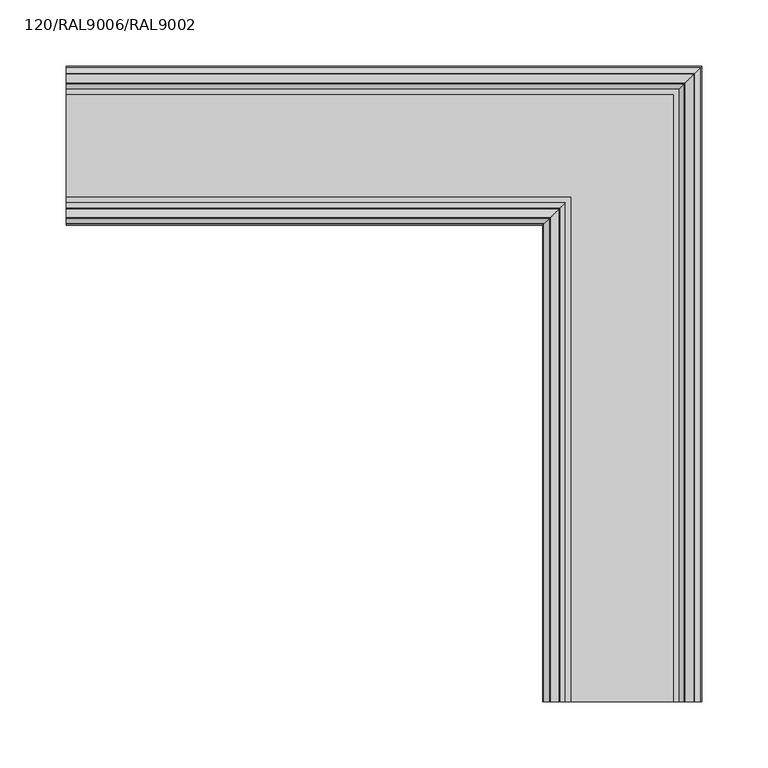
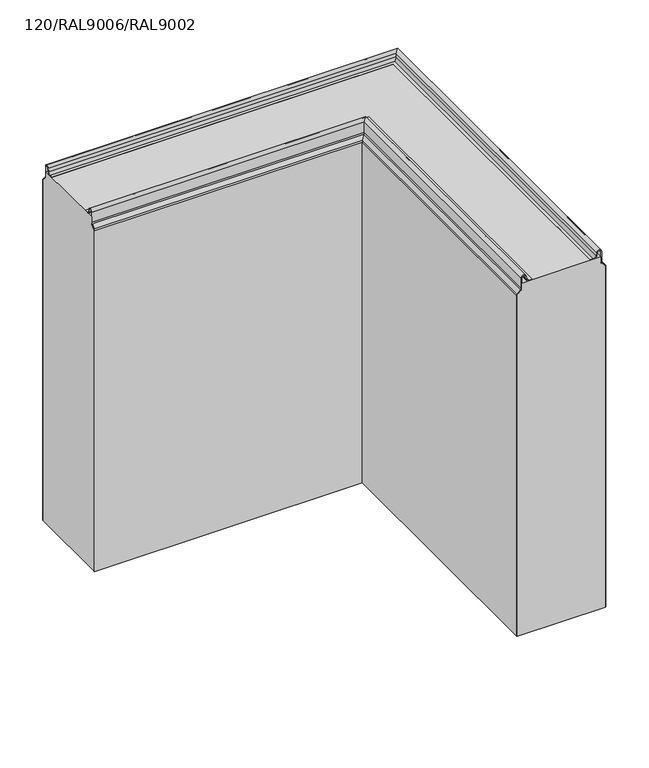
"""IFC4 building model written with IfcOpenShell, lengths in millimetres: plate geometry, TR_C_H_FTV_Corner_Tr_A_cut_TONGUE : 120/RAL9006/RAL9002."""

from ifc_helpers import new_model, si_unit, frame, origin, place, context, project, spatial, polyline, circle_curve, ellipse_curve, source, transform, mapped, element, save
from ifc_brep_helpers import plane_surface, cylinder_surface, revolved_surface, advanced_brep


def plate_120_ral9006_ral9002_852db846(model_context):
    return source(origin(), model_context, "Body", "AdvancedBrep", [
        advanced_brep(
        [(233.2, -480.0, 500.0), (126.8, -480.0, 500.0), (126.8, -480.0, 492.6000012), (125.8334524, -480.0, 490.2665488), (121.4443651, -480.0, 485.8774615), (120.8, -480.0, 484.3218266), (120.8, -480.0, 0.0), (239.2, -480.0, 0.0), (239.2, -480.0, 484.3218266), (238.5556349, -480.0, 485.8774615), (234.1665476, -480.0, 490.2665488), (233.2, -480.0, 492.6000012), (126.8, -113.2, 492.6000012), (126.8, -113.2, 500.0), (-240.0, -113.2, 500.0), (-240.0, -113.2, 492.6000012), (-240.0, -114.1665476, 490.2665488), (125.8334524, -114.1665476, 490.2665488), (-240.0, -118.5556349, 485.8774615), (121.4443651, -118.5556349, 485.8774615), (-240.0, -119.2, 484.3218266), (120.8, -119.2, 484.3218266), (238.5556349, -1.4443651, 485.8774615), (239.2, -0.8, 484.3218266), (-240.0, -0.8, 484.3218266), (-240.0, -1.4443651, 485.8774615), (-240.0, -5.8334524, 490.2665488), (234.1665476, -5.8334524, 490.2665488), (-240.0, -6.8, 492.6000012), (233.2, -6.8, 492.6000012), (-240.0, -6.8, 500.0), (233.2, -6.8, 500.0), (-240.0, -0.8, 0.0), (-240.0, -119.2, 0.0), (120.8, -119.2, 0.0), (239.2, -0.8, 0.0)],
        [
            (0, 1),
            (1, 2),
            (2, 3, circle_curve(frame((123.5, -480.0, 492.6000012), z_axis=(0.0, 1.0, 0.0), x_axis=(-1.0, 0.0, 0.0)), 3.3)),
            (3, 4),
            (4, 5, circle_curve(frame((123.0, -480.0, 484.3218266), z_axis=(0.0, -1.0, 0.0), x_axis=(-1.0, 0.0, 0.0)), 2.2)),
            (5, 6),
            (6, 7),
            (7, 8),
            (8, 9, circle_curve(frame((237.0, -480.0, 484.3218266), z_axis=(0.0, -1.0, 0.0), x_axis=(-1.0, 0.0, 0.0)), 2.2)),
            (9, 10),
            (10, 11, circle_curve(frame((236.5, -480.0, 492.6000012), z_axis=(0.0, 1.0, 0.0), x_axis=(-1.0, 0.0, 0.0)), 3.3)),
            (11, 0),
            (12, 13),
            (13, 14),
            (14, 15),
            (15, 12),
            (15, 16, circle_curve(frame((-240.0, -116.5, 492.6000012), z_axis=(-1.0, 0.0, 0.0), x_axis=(0.0, -1.0, 0.0)), 3.3)),
            (16, 17),
            (17, 12, ellipse_curve(frame((123.5, -116.5, 492.6000012), z_axis=(0.7071067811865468, -0.7071067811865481, 0.0), x_axis=(-0.7071067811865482, -0.7071067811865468, 0.0)), 4.6669048, 3.3)),
            (16, 18),
            (18, 19),
            (19, 17),
            (18, 20, circle_curve(frame((-240.0, -117.0, 484.3218266), z_axis=(1.0, 0.0, 0.0), x_axis=(0.0, -1.0, 0.0)), 2.2)),
            (20, 21),
            (21, 19, ellipse_curve(frame((123.0, -117.0, 484.3218266), z_axis=(-0.7071067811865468, 0.7071067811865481, 0.0), x_axis=(0.7071067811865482, 0.7071067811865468, 0.0)), 3.1112698, 2.2)),
            (22, 23, ellipse_curve(frame((237.0, -3.0, 484.3218266), z_axis=(-0.7071067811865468, 0.7071067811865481, 0.0), x_axis=(0.7071067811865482, 0.7071067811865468, 0.0)), 3.1112698, 2.2)),
            (23, 24),
            (24, 25, circle_curve(frame((-240.0, -3.0, 484.3218266), z_axis=(1.0, 0.0, 0.0), x_axis=(0.0, -1.0, 0.0)), 2.2)),
            (25, 22),
            (25, 26),
            (26, 27),
            (27, 22),
            (26, 28, circle_curve(frame((-240.0, -3.5, 492.6000012), z_axis=(-1.0, 0.0, 0.0), x_axis=(0.0, -1.0, 0.0)), 3.3)),
            (28, 29),
            (29, 27, ellipse_curve(frame((236.5, -3.5, 492.6000012), z_axis=(0.7071067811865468, -0.7071067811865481, 0.0), x_axis=(-0.7071067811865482, -0.7071067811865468, 0.0)), 4.6669048, 3.3)),
            (28, 30),
            (30, 31),
            (31, 29),
            (14, 30),
            (24, 32),
            (32, 33),
            (33, 20),
            (0, 31),
            (13, 1),
            (12, 2),
            (17, 3),
            (19, 4),
            (21, 5),
            (8, 23),
            (22, 9),
            (27, 10),
            (29, 11),
            (21, 34),
            (34, 6),
            (7, 35),
            (35, 23),
            (33, 34),
            (35, 32),
        ],
        [
            plane_surface(frame((240.0, -480.0, 0.0), z_axis=(0.0, -1.0, 0.0), x_axis=(0.0, 0.0, 1.0))),
            plane_surface(frame((126.8, -113.2, 500.0), z_axis=(0.0, -1.0, 0.0), x_axis=(-1.0, 0.0, 0.0))),
            revolved_surface(polyline([(-240.0, -119.8, 492.6000012), (126.80000003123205, -119.8, 492.6000012)]), (240.0, -116.5, 492.6000012), (-1.0, 0.0, 0.0)),
            plane_surface(frame((125.8334524, -114.1665476, 490.2665488), z_axis=(0.0, -0.7071067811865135, 0.7071067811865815), x_axis=(-1.0, 0.0, 0.0))),
            cylinder_surface(frame((240.0, -117.0, 484.3218266), z_axis=(1.0, 0.0, 0.0), x_axis=(0.0, -1.0, 0.0)), 2.2),
            cylinder_surface(frame((240.0, -3.0, 484.3218266), z_axis=(1.0, 0.0, 0.0), x_axis=(0.0, -1.0, 0.0)), 2.2),
            plane_surface(frame((238.5556349, -1.4443651, 485.8774615), z_axis=(0.0, 0.7071067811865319, 0.7071067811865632), x_axis=(-1.0, 0.0, 0.0))),
            revolved_surface(polyline([(-240.0, -6.8, 492.6000012), (239.80000003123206, -6.8, 492.6000012)]), (240.0, -3.5, 492.6000012), (-1.0, 0.0, 0.0)),
            plane_surface(frame((233.2, -6.8, 492.6000012), z_axis=(0.0, 1.0, 0.0), x_axis=(-1.0, 0.0, 0.0))),
            plane_surface(frame((-240.0, 0.0, 0.0), z_axis=(-1.0, 0.0, 0.0), x_axis=(0.0, 0.0, 1.0))),
            plane_surface(frame((233.2, -480.0, 500.0), z_axis=(0.0, 0.0, 1.0), x_axis=(0.0, 1.0, 0.0))),
            plane_surface(frame((126.8, -480.0, 500.0), z_axis=(-1.0, 0.0, 0.0), x_axis=(0.0, 1.0, 0.0))),
            revolved_surface(polyline([(120.2, -113.19999996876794, 492.6000012), (120.2, -480.0, 492.6000012)]), (123.5, -480.0, 492.6000012), (0.0, 1.0, 0.0)),
            plane_surface(frame((125.8334524, -480.0, 490.2665488), z_axis=(-0.7071067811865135, 0.0, 0.7071067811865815), x_axis=(0.0, 1.0, 0.0))),
            cylinder_surface(frame((123.0, -480.0, 484.3218266), z_axis=(0.0, -1.0, 0.0), x_axis=(-1.0, 0.0, 0.0)), 2.2),
            cylinder_surface(frame((237.0, -480.0, 484.3218266), z_axis=(0.0, -1.0, 0.0), x_axis=(-1.0, 0.0, 0.0)), 2.2),
            plane_surface(frame((238.5556349, -480.0, 485.8774615), z_axis=(0.7071067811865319, 0.0, 0.7071067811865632), x_axis=(0.0, 1.0, 0.0))),
            revolved_surface(polyline([(233.2, -0.19999996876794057, 492.6000012), (233.2, -480.0, 492.6000012)]), (236.5, -480.0, 492.6000012), (0.0, 1.0, 0.0)),
            plane_surface(frame((233.2, -480.0, 492.6000012), z_axis=(1.0, 0.0, 0.0), x_axis=(0.0, 1.0, 0.0))),
            plane_surface(frame((120.8, -480.0, 484.3218266), z_axis=(-1.0, 0.0, 0.0), x_axis=(0.0, 1.0, 0.0))),
            plane_surface(frame((239.2, -480.0, -485.5999988), z_axis=(1.0, 0.0, 0.0), x_axis=(0.0, 1.0, 0.0))),
            plane_surface(frame((120.8, -119.2, 484.3218266), z_axis=(0.0, -1.0, 0.0), x_axis=(-1.0, 0.0, 0.0))),
            plane_surface(frame((239.2, -0.8, -485.5999988), z_axis=(0.0, 1.0, 0.0), x_axis=(-1.0, 0.0, 0.0))),
            plane_surface(frame((240.0, -480.0, 0.0), z_axis=(0.0, 0.0, -1.0), x_axis=(0.0, 1.0, 0.0))),
        ],
        [
            (0, [[1, 2, 3, 4, 5, 6, 7, 8, 9, 10, 11, 12]]),
            (1, [[13, 14, 15, 16]]),
            (2, [[-16, 17, 18, 19]]),
            (3, [[-18, 20, 21, 22]]),
            (4, [[-21, 23, 24, 25]]),
            (5, [[26, 27, 28, 29]]),
            (6, [[-29, 30, 31, 32]]),
            (7, [[-31, 33, 34, 35]]),
            (8, [[-34, 36, 37, 38]]),
            (9, [[-15, 39, -36, -33, -30, -28, 40, 41, 42, -23, -20, -17]]),
            (10, [[-1, 43, -37, -39, -14, 44]]),
            (11, [[-2, -44, -13, 45]]),
            (12, [[-3, -45, -19, 46]]),
            (13, [[-4, -46, -22, 47]]),
            (14, [[-5, -47, -25, 48]]),
            (15, [[-9, 49, -26, 50]]),
            (16, [[-10, -50, -32, 51]]),
            (17, [[-11, -51, -35, 52]]),
            (18, [[-12, -52, -38, -43]]),
            (19, [[-48, 53, 54, -6]]),
            (20, [[-49, -8, 55, 56]]),
            (21, [[-24, -42, 57, -53]]),
            (22, [[-27, -56, 58, -40]]),
            (23, [[-7, -54, -57, -41, -58, -55]]),
        ],
    ),
        advanced_brep(
        [(223.1130328, -480.0, 499.8000012), (227.5939081, -480.0, 503.559902), (228.337221, -480.0, 507.7754392), (233.2, -480.0, 507.3500012), (233.2, -480.0, 492.6000012), (234.1665476, -480.0, 490.2665488), (238.5556349, -480.0, 485.8774615), (239.2, -480.0, 484.3218266), (239.2, -480.0, 0.0), (240.0, -480.0, 0.0), (240.0, -480.0, 484.3218266), (239.1213203, -480.0, 486.4431469), (234.732233, -480.0, 490.8322342), (234.0, -480.0, 492.6000012), (234.0, -480.0, 507.3500012), (227.5493748, -480.0, 507.9143577), (226.8060618, -480.0, 503.6988205), (223.1130328, -480.0, 500.6000012), (219.0, -480.0, 500.6000012), (219.0, -480.0, 499.8000012), (227.5939081, -12.4060919, 503.559902), (223.1130328, -16.8869672, 499.8000012), (-240.0, -16.8869672, 499.8000012), (-240.0, -12.4060919, 503.559902), (-240.0, -11.662779, 507.7754392), (228.337221, -11.662779, 507.7754392), (-240.0, -6.8, 507.3500012), (233.2, -6.8, 507.3500012), (-240.0, -6.8, 492.6000012), (233.2, -6.8, 492.6000012), (-240.0, -5.8334524, 490.2665488), (234.1665476, -5.8334524, 490.2665488), (-240.0, -1.4443651, 485.8774615), (238.5556349, -1.4443651, 485.8774615), (-240.0, -0.8, 484.3218266), (239.2, -0.8, 484.3218266), (239.1213203, -0.8786797, 486.4431469), (240.0, 0.0, 484.3218266), (-240.0, 0.0, 484.3218266), (-240.0, -0.8786797, 486.4431469), (-240.0, -5.267767, 490.8322342), (234.732233, -5.267767, 490.8322342), (-240.0, -6.0, 492.6000012), (234.0, -6.0, 492.6000012), (-240.0, -6.0, 507.3500012), (234.0, -6.0, 507.3500012), (-240.0, -12.4506252, 507.9143577), (227.5493748, -12.4506252, 507.9143577), (-240.0, -13.1939382, 503.6988205), (226.8060618, -13.1939382, 503.6988205), (-240.0, -16.8869672, 500.6000012), (223.1130328, -16.8869672, 500.6000012), (219.0, -21.0, 499.8000012), (219.0, -21.0, 500.6000012), (-240.0, -21.0, 500.6000012), (-240.0, -21.0, 499.8000012), (-240.0, 0.0, 0.0), (-240.0, -0.8, 0.0), (239.2, -0.8, 0.0), (240.0, 0.0, 0.0)],
        [
            (0, 1, circle_curve(frame((223.1130328, -480.0, 504.3500012), z_axis=(0.0, -1.0, 0.0), x_axis=(-1.0, 0.0, 0.0)), 4.55)),
            (1, 2),
            (2, 3, circle_curve(frame((230.75, -480.0, 507.3500012), z_axis=(0.0, 1.0, 0.0), x_axis=(-1.0, 0.0, 0.0)), 2.45)),
            (3, 4),
            (4, 5, circle_curve(frame((236.5, -480.0, 492.6000012), z_axis=(0.0, -1.0, 0.0), x_axis=(-1.0, 0.0, 0.0)), 3.3)),
            (5, 6),
            (6, 7, circle_curve(frame((237.0, -480.0, 484.3218266), z_axis=(0.0, 1.0, 0.0), x_axis=(-1.0, 0.0, 0.0)), 2.2)),
            (7, 8),
            (8, 9),
            (9, 10),
            (10, 11, circle_curve(frame((237.0, -480.0, 484.3218266), z_axis=(0.0, -1.0, 0.0), x_axis=(-1.0, 0.0, 0.0)), 3.0)),
            (11, 12),
            (12, 13, circle_curve(frame((236.5, -480.0, 492.6000012), z_axis=(0.0, 1.0, 0.0), x_axis=(-1.0, 0.0, 0.0)), 2.5)),
            (13, 14),
            (14, 15, circle_curve(frame((230.75, -480.0, 507.3500012), z_axis=(0.0, -1.0, 0.0), x_axis=(-1.0, 0.0, 0.0)), 3.25)),
            (15, 16),
            (16, 17, circle_curve(frame((223.1130328, -480.0, 504.3500012), z_axis=(0.0, 1.0, 0.0), x_axis=(-1.0, 0.0, 0.0)), 3.75)),
            (17, 18),
            (18, 19),
            (19, 0),
            (20, 21, ellipse_curve(frame((223.1130328, -16.8869672, 504.3500012), z_axis=(-0.7071067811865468, 0.7071067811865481, 0.0), x_axis=(0.7071067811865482, 0.7071067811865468, 0.0)), 6.4346717, 4.55)),
            (21, 22),
            (22, 23, circle_curve(frame((-240.0, -16.8869672, 504.3500012), z_axis=(1.0, 0.0, 0.0), x_axis=(0.0, -1.0, 0.0)), 4.55)),
            (23, 20),
            (23, 24),
            (24, 25),
            (25, 20),
            (24, 26, circle_curve(frame((-240.0, -9.25, 507.3500012), z_axis=(-1.0, 0.0, 0.0), x_axis=(0.0, -1.0, 0.0)), 2.45)),
            (26, 27),
            (27, 25, ellipse_curve(frame((230.75, -9.25, 507.3500012), z_axis=(0.7071067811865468, -0.7071067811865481, 0.0), x_axis=(-0.7071067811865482, -0.7071067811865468, 0.0)), 3.4648232, 2.45)),
            (26, 28),
            (28, 29),
            (29, 27),
            (28, 30, circle_curve(frame((-240.0, -3.5, 492.6000012), z_axis=(1.0, 0.0, 0.0), x_axis=(0.0, -1.0, 0.0)), 3.3)),
            (30, 31),
            (31, 29, ellipse_curve(frame((236.5, -3.5, 492.6000012), z_axis=(-0.7071067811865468, 0.7071067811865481, 0.0), x_axis=(0.7071067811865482, 0.7071067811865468, 0.0)), 4.6669048, 3.3)),
            (30, 32),
            (32, 33),
            (33, 31),
            (32, 34, circle_curve(frame((-240.0, -3.0, 484.3218266), z_axis=(-1.0, 0.0, 0.0), x_axis=(0.0, -1.0, 0.0)), 2.2)),
            (34, 35),
            (35, 33, ellipse_curve(frame((237.0, -3.0, 484.3218266), z_axis=(0.7071067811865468, -0.7071067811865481, 0.0), x_axis=(-0.7071067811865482, -0.7071067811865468, 0.0)), 3.1112698, 2.2)),
            (36, 37, ellipse_curve(frame((237.0, -3.0, 484.3218266), z_axis=(-0.7071067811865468, 0.7071067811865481, 0.0), x_axis=(0.7071067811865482, 0.7071067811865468, 0.0)), 4.2426407, 3.0)),
            (37, 38),
            (38, 39, circle_curve(frame((-240.0, -3.0, 484.3218266), z_axis=(1.0, 0.0, 0.0), x_axis=(0.0, -1.0, 0.0)), 3.0)),
            (39, 36),
            (39, 40),
            (40, 41),
            (41, 36),
            (40, 42, circle_curve(frame((-240.0, -3.5, 492.6000012), z_axis=(-1.0, 0.0, 0.0), x_axis=(0.0, -1.0, 0.0)), 2.5)),
            (42, 43),
            (43, 41, ellipse_curve(frame((236.5, -3.5, 492.6000012), z_axis=(0.7071067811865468, -0.7071067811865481, 0.0), x_axis=(-0.7071067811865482, -0.7071067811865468, 0.0)), 3.5355339, 2.5)),
            (42, 44),
            (44, 45),
            (45, 43),
            (44, 46, circle_curve(frame((-240.0, -9.25, 507.3500012), z_axis=(1.0, 0.0, 0.0), x_axis=(0.0, -1.0, 0.0)), 3.25)),
            (46, 47),
            (47, 45, ellipse_curve(frame((230.75, -9.25, 507.3500012), z_axis=(-0.7071067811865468, 0.7071067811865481, 0.0), x_axis=(0.7071067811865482, 0.7071067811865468, 0.0)), 4.5961941, 3.25)),
            (46, 48),
            (48, 49),
            (49, 47),
            (48, 50, circle_curve(frame((-240.0, -16.8869672, 504.3500012), z_axis=(-1.0, 0.0, 0.0), x_axis=(0.0, -1.0, 0.0)), 3.75)),
            (50, 51),
            (51, 49, ellipse_curve(frame((223.1130328, -16.8869672, 504.3500012), z_axis=(0.7071067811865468, -0.7071067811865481, 0.0), x_axis=(-0.7071067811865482, -0.7071067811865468, 0.0)), 5.3033009, 3.75)),
            (52, 53),
            (53, 54),
            (54, 55),
            (55, 52),
            (22, 55),
            (54, 50),
            (38, 56),
            (56, 57),
            (57, 34),
            (0, 21),
            (20, 1),
            (25, 2),
            (27, 3),
            (29, 4),
            (31, 5),
            (33, 6),
            (35, 7),
            (10, 37),
            (36, 11),
            (41, 12),
            (43, 13),
            (45, 14),
            (47, 15),
            (49, 16),
            (51, 17),
            (53, 18),
            (52, 19),
            (35, 58),
            (58, 8),
            (9, 59),
            (59, 37),
            (57, 58),
            (59, 56),
        ],
        [
            plane_surface(frame((240.0, -480.0, 0.0), z_axis=(0.0, -1.0, 0.0), x_axis=(0.0, 0.0, 1.0))),
            cylinder_surface(frame((240.0, -16.8869672, 504.3500012), z_axis=(1.0, 0.0, 0.0), x_axis=(0.0, -1.0, 0.0)), 4.55),
            plane_surface(frame((227.5939081, -12.4060919, 503.559902), z_axis=(0.0, 0.9848077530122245, -0.17364817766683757), x_axis=(-1.0, 0.0, 0.0))),
            revolved_surface(polyline([(-240.0, -11.7, 507.3500012), (233.2, -11.7, 507.3500012)]), (240.0, -9.25, 507.3500012), (-1.0, 0.0, 0.0)),
            plane_surface(frame((233.2, -6.8, 507.3500012), z_axis=(0.0, -1.0, 0.0), x_axis=(-1.0, 0.0, 0.0))),
            cylinder_surface(frame((240.0, -3.5, 492.6000012), z_axis=(1.0, 0.0, 0.0), x_axis=(0.0, -1.0, 0.0)), 3.3),
            plane_surface(frame((234.1665476, -5.8334524, 490.2665488), z_axis=(0.0, -0.7071067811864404, -0.7071067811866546), x_axis=(-1.0, 0.0, 0.0))),
            revolved_surface(polyline([(-240.0, -5.2, 484.3218266), (239.2, -5.2, 484.3218266)]), (240.0, -3.0, 484.3218266), (-1.0, 0.0, 0.0)),
            cylinder_surface(frame((240.0, -3.0, 484.3218266), z_axis=(1.0, 0.0, 0.0), x_axis=(0.0, -1.0, 0.0)), 3.0),
            plane_surface(frame((239.1213203, -0.8786797, 486.4431469), z_axis=(0.0, 0.7071067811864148, 0.7071067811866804), x_axis=(-1.0, 0.0, 0.0))),
            revolved_surface(polyline([(-240.0, -6.0, 492.6000012), (238.99999999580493, -6.0, 492.6000012)]), (240.0, -3.5, 492.6000012), (-1.0, 0.0, 0.0)),
            plane_surface(frame((234.0, -6.0, 492.6000012), z_axis=(0.0, 1.0, 0.0), x_axis=(-1.0, 0.0, 0.0))),
            cylinder_surface(frame((240.0, -9.25, 507.3500012), z_axis=(1.0, 0.0, 0.0), x_axis=(0.0, -1.0, 0.0)), 3.25),
            plane_surface(frame((227.5493748, -12.4506252, 507.9143577), z_axis=(0.0, -0.9848077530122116, 0.17364817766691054), x_axis=(-1.0, 0.0, 0.0))),
            revolved_surface(polyline([(-240.0, -20.6369672, 504.3500012), (226.86303282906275, -20.6369672, 504.3500012)]), (240.0, -16.8869672, 504.3500012), (-1.0, 0.0, 0.0)),
            plane_surface(frame((219.0, -21.0, 500.6000012), z_axis=(0.0, -1.0, 0.0), x_axis=(-1.0, 0.0, 0.0))),
            plane_surface(frame((-240.0, 0.0, 0.0), z_axis=(-1.0, 0.0, 0.0), x_axis=(0.0, 0.0, 1.0))),
            cylinder_surface(frame((223.1130328, -480.0, 504.3500012), z_axis=(0.0, -1.0, 0.0), x_axis=(-1.0, 0.0, 0.0)), 4.55),
            plane_surface(frame((227.5939081, -480.0, 503.559902), z_axis=(0.9848077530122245, 0.0, -0.17364817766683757), x_axis=(0.0, 1.0, 0.0))),
            revolved_surface(polyline([(228.3, -6.800000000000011, 507.3500012), (228.3, -480.0, 507.3500012)]), (230.75, -480.0, 507.3500012), (0.0, 1.0, 0.0)),
            plane_surface(frame((233.2, -480.0, 507.3500012), z_axis=(-1.0, 0.0, 0.0), x_axis=(0.0, 1.0, 0.0))),
            cylinder_surface(frame((236.5, -480.0, 492.6000012), z_axis=(0.0, -1.0, 0.0), x_axis=(-1.0, 0.0, 0.0)), 3.3),
            plane_surface(frame((234.1665476, -480.0, 490.2665488), z_axis=(-0.7071067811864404, 0.0, -0.7071067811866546), x_axis=(0.0, 1.0, 0.0))),
            revolved_surface(polyline([(234.8, -0.8000000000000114, 484.3218266), (234.8, -480.0, 484.3218266)]), (237.0, -480.0, 484.3218266), (0.0, 1.0, 0.0)),
            cylinder_surface(frame((237.0, -480.0, 484.3218266), z_axis=(0.0, -1.0, 0.0), x_axis=(-1.0, 0.0, 0.0)), 3.0),
            plane_surface(frame((239.1213203, -480.0, 486.4431469), z_axis=(0.7071067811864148, 0.0, 0.7071067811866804), x_axis=(0.0, 1.0, 0.0))),
            revolved_surface(polyline([(234.0, -1.0000000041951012, 492.6000012), (234.0, -480.0, 492.6000012)]), (236.5, -480.0, 492.6000012), (0.0, 1.0, 0.0)),
            plane_surface(frame((234.0, -480.0, 492.6000012), z_axis=(1.0, 0.0, 0.0), x_axis=(0.0, 1.0, 0.0))),
            cylinder_surface(frame((230.75, -480.0, 507.3500012), z_axis=(0.0, -1.0, 0.0), x_axis=(-1.0, 0.0, 0.0)), 3.25),
            plane_surface(frame((227.5493748, -480.0, 507.9143577), z_axis=(-0.9848077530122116, 0.0, 0.17364817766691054), x_axis=(0.0, 1.0, 0.0))),
            revolved_surface(polyline([(219.3630328, -13.136967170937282, 504.3500012), (219.3630328, -480.0, 504.3500012)]), (223.1130328, -480.0, 504.3500012), (0.0, 1.0, 0.0)),
            plane_surface(frame((223.1130328, -480.0, 500.6000012), z_axis=(0.0, 0.0, 1.0), x_axis=(0.0, 1.0, 0.0))),
            plane_surface(frame((219.0, -480.0, 500.6000012), z_axis=(-1.0, 0.0, 0.0), x_axis=(0.0, 1.0, 0.0))),
            plane_surface(frame((219.0, -480.0, 499.8000012), z_axis=(0.0, 0.0, -1.0), x_axis=(0.0, 1.0, 0.0))),
            plane_surface(frame((239.2, -480.0, 484.3218266), z_axis=(-1.0, 0.0, 0.0), x_axis=(0.0, 1.0, 0.0))),
            plane_surface(frame((240.0, -480.0, -505.018628), z_axis=(1.0, 0.0, 0.0), x_axis=(0.0, 1.0, 0.0))),
            plane_surface(frame((239.2, -0.8, 484.3218266), z_axis=(0.0, -1.0, 0.0), x_axis=(-1.0, 0.0, 0.0))),
            plane_surface(frame((240.0, 0.0, -505.018628), z_axis=(0.0, 1.0, 0.0), x_axis=(-1.0, 0.0, 0.0))),
            plane_surface(frame((240.0, -480.0, 0.0), z_axis=(0.0, 0.0, -1.0), x_axis=(0.0, 1.0, 0.0))),
        ],
        [
            (0, [[1, 2, 3, 4, 5, 6, 7, 8, 9, 10, 11, 12, 13, 14, 15, 16, 17, 18, 19, 20]]),
            (1, [[21, 22, 23, 24]]),
            (2, [[-24, 25, 26, 27]]),
            (3, [[-26, 28, 29, 30]]),
            (4, [[-29, 31, 32, 33]]),
            (5, [[-32, 34, 35, 36]]),
            (6, [[-35, 37, 38, 39]]),
            (7, [[-38, 40, 41, 42]]),
            (8, [[43, 44, 45, 46]]),
            (9, [[-46, 47, 48, 49]]),
            (10, [[-48, 50, 51, 52]]),
            (11, [[-51, 53, 54, 55]]),
            (12, [[-54, 56, 57, 58]]),
            (13, [[-57, 59, 60, 61]]),
            (14, [[-60, 62, 63, 64]]),
            (15, [[65, 66, 67, 68]]),
            (16, [[-23, 69, -67, 70, -62, -59, -56, -53, -50, -47, -45, 71, 72, 73, -40, -37, -34, -31, -28, -25]]),
            (17, [[-1, 74, -21, 75]]),
            (18, [[-2, -75, -27, 76]]),
            (19, [[-3, -76, -30, 77]]),
            (20, [[-4, -77, -33, 78]]),
            (21, [[-5, -78, -36, 79]]),
            (22, [[-6, -79, -39, 80]]),
            (23, [[-7, -80, -42, 81]]),
            (24, [[-11, 82, -43, 83]]),
            (25, [[-12, -83, -49, 84]]),
            (26, [[-13, -84, -52, 85]]),
            (27, [[-14, -85, -55, 86]]),
            (28, [[-15, -86, -58, 87]]),
            (29, [[-16, -87, -61, 88]]),
            (30, [[-17, -88, -64, 89]]),
            (31, [[-18, -89, -63, -70, -66, 90]]),
            (32, [[-19, -90, -65, 91]]),
            (33, [[-20, -91, -68, -69, -22, -74]]),
            (34, [[-81, 92, 93, -8]]),
            (35, [[-82, -10, 94, 95]]),
            (36, [[-41, -73, 96, -92]]),
            (37, [[-44, -95, 97, -71]]),
            (38, [[-9, -93, -96, -72, -97, -94]]),
        ],
    ),
        advanced_brep(
        [(141.0, -480.0, 500.6000012), (136.8869672, -480.0, 500.6000012), (133.1939382, -480.0, 503.6988205), (132.4506252, -480.0, 507.9143577), (126.0, -480.0, 507.3500012), (126.0, -480.0, 492.6000012), (125.267767, -480.0, 490.8322342), (120.8786797, -480.0, 486.4431469), (120.0, -480.0, 484.3218266), (120.0, -480.0, 0.0), (120.8, -480.0, 0.0), (120.8, -480.0, 484.3218266), (121.4443651, -480.0, 485.8774615), (125.8334524, -480.0, 490.2665488), (126.8, -480.0, 492.6000012), (126.8, -480.0, 507.3500012), (131.662779, -480.0, 507.7754392), (132.4060919, -480.0, 503.559902), (136.8869672, -480.0, 499.8000012), (141.0, -480.0, 499.8000012), (133.1939382, -106.8060618, 503.6988205), (136.8869672, -103.1130328, 500.6000012), (-240.0, -103.1130328, 500.6000012), (-240.0, -106.8060618, 503.6988205), (-240.0, -107.5493748, 507.9143577), (132.4506252, -107.5493748, 507.9143577), (-240.0, -114.0, 507.3500012), (126.0, -114.0, 507.3500012), (-240.0, -114.0, 492.6000012), (126.0, -114.0, 492.6000012), (-240.0, -114.732233, 490.8322342), (125.267767, -114.732233, 490.8322342), (-240.0, -119.1213203, 486.4431469), (120.8786797, -119.1213203, 486.4431469), (-240.0, -120.0, 484.3218266), (120.0, -120.0, 484.3218266), (121.4443651, -118.5556349, 485.8774615), (120.8, -119.2, 484.3218266), (-240.0, -119.2, 484.3218266), (-240.0, -118.5556349, 485.8774615), (-240.0, -114.1665476, 490.2665488), (125.8334524, -114.1665476, 490.2665488), (-240.0, -113.2, 492.6000012), (126.8, -113.2, 492.6000012), (-240.0, -113.2, 507.3500012), (126.8, -113.2, 507.3500012), (-240.0, -108.337221, 507.7754392), (131.662779, -108.337221, 507.7754392), (-240.0, -107.5939081, 503.559902), (132.4060919, -107.5939081, 503.559902), (-240.0, -103.1130328, 499.8000012), (136.8869672, -103.1130328, 499.8000012), (141.0, -99.0, 500.6000012), (141.0, -99.0, 499.8000012), (-240.0, -99.0, 499.8000012), (-240.0, -99.0, 500.6000012), (-240.0, -119.2, 0.0), (-240.0, -120.0, 0.0), (120.0, -120.0, 0.0), (120.8, -119.2, 0.0)],
        [
            (0, 1),
            (1, 2, circle_curve(frame((136.8869672, -480.0, 504.3500012), z_axis=(0.0, 1.0, 0.0), x_axis=(-1.0, 0.0, 0.0)), 3.75)),
            (2, 3),
            (3, 4, circle_curve(frame((129.25, -480.0, 507.3500012), z_axis=(0.0, -1.0, 0.0), x_axis=(-1.0, 0.0, 0.0)), 3.25)),
            (4, 5),
            (5, 6, circle_curve(frame((123.5, -480.0, 492.6000012), z_axis=(0.0, 1.0, 0.0), x_axis=(-1.0, 0.0, 0.0)), 2.5)),
            (6, 7),
            (7, 8, circle_curve(frame((123.0, -480.0, 484.3218266), z_axis=(0.0, -1.0, 0.0), x_axis=(-1.0, 0.0, 0.0)), 3.0)),
            (8, 9),
            (9, 10),
            (10, 11),
            (11, 12, circle_curve(frame((123.0, -480.0, 484.3218266), z_axis=(0.0, 1.0, 0.0), x_axis=(-1.0, 0.0, 0.0)), 2.2)),
            (12, 13),
            (13, 14, circle_curve(frame((123.5, -480.0, 492.6000012), z_axis=(0.0, -1.0, 0.0), x_axis=(-1.0, 0.0, 0.0)), 3.3)),
            (14, 15),
            (15, 16, circle_curve(frame((129.25, -480.0, 507.3500012), z_axis=(0.0, 1.0, 0.0), x_axis=(-1.0, 0.0, 0.0)), 2.45)),
            (16, 17),
            (17, 18, circle_curve(frame((136.8869672, -480.0, 504.3500012), z_axis=(0.0, -1.0, 0.0), x_axis=(-1.0, 0.0, 0.0)), 4.55)),
            (18, 19),
            (19, 0),
            (20, 21, ellipse_curve(frame((136.8869672, -103.1130328, 504.3500012), z_axis=(0.7071067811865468, -0.7071067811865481, 0.0), x_axis=(-0.7071067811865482, -0.7071067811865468, 0.0)), 5.3033009, 3.75)),
            (21, 22),
            (22, 23, circle_curve(frame((-240.0, -103.1130328, 504.3500012), z_axis=(-1.0, 0.0, 0.0), x_axis=(0.0, -1.0, 0.0)), 3.75)),
            (23, 20),
            (23, 24),
            (24, 25),
            (25, 20),
            (24, 26, circle_curve(frame((-240.0, -110.75, 507.3500012), z_axis=(1.0, 0.0, 0.0), x_axis=(0.0, -1.0, 0.0)), 3.25)),
            (26, 27),
            (27, 25, ellipse_curve(frame((129.25, -110.75, 507.3500012), z_axis=(-0.7071067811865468, 0.7071067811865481, 0.0), x_axis=(0.7071067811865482, 0.7071067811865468, 0.0)), 4.5961941, 3.25)),
            (26, 28),
            (28, 29),
            (29, 27),
            (28, 30, circle_curve(frame((-240.0, -116.5, 492.6000012), z_axis=(-1.0, 0.0, 0.0), x_axis=(0.0, -1.0, 0.0)), 2.5)),
            (30, 31),
            (31, 29, ellipse_curve(frame((123.5, -116.5, 492.6000012), z_axis=(0.7071067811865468, -0.7071067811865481, 0.0), x_axis=(-0.7071067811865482, -0.7071067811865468, 0.0)), 3.5355339, 2.5)),
            (30, 32),
            (32, 33),
            (33, 31),
            (32, 34, circle_curve(frame((-240.0, -117.0, 484.3218266), z_axis=(1.0, 0.0, 0.0), x_axis=(0.0, -1.0, 0.0)), 3.0)),
            (34, 35),
            (35, 33, ellipse_curve(frame((123.0, -117.0, 484.3218266), z_axis=(-0.7071067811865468, 0.7071067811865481, 0.0), x_axis=(0.7071067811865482, 0.7071067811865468, 0.0)), 4.2426407, 3.0)),
            (36, 37, ellipse_curve(frame((123.0, -117.0, 484.3218266), z_axis=(0.7071067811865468, -0.7071067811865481, 0.0), x_axis=(-0.7071067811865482, -0.7071067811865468, 0.0)), 3.1112698, 2.2)),
            (37, 38),
            (38, 39, circle_curve(frame((-240.0, -117.0, 484.3218266), z_axis=(-1.0, 0.0, 0.0), x_axis=(0.0, -1.0, 0.0)), 2.2)),
            (39, 36),
            (39, 40),
            (40, 41),
            (41, 36),
            (40, 42, circle_curve(frame((-240.0, -116.5, 492.6000012), z_axis=(1.0, 0.0, 0.0), x_axis=(0.0, -1.0, 0.0)), 3.3)),
            (42, 43),
            (43, 41, ellipse_curve(frame((123.5, -116.5, 492.6000012), z_axis=(-0.7071067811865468, 0.7071067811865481, 0.0), x_axis=(0.7071067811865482, 0.7071067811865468, 0.0)), 4.6669048, 3.3)),
            (42, 44),
            (44, 45),
            (45, 43),
            (44, 46, circle_curve(frame((-240.0, -110.75, 507.3500012), z_axis=(-1.0, 0.0, 0.0), x_axis=(0.0, -1.0, 0.0)), 2.45)),
            (46, 47),
            (47, 45, ellipse_curve(frame((129.25, -110.75, 507.3500012), z_axis=(0.7071067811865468, -0.7071067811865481, 0.0), x_axis=(-0.7071067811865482, -0.7071067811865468, 0.0)), 3.4648232, 2.45)),
            (46, 48),
            (48, 49),
            (49, 47),
            (48, 50, circle_curve(frame((-240.0, -103.1130328, 504.3500012), z_axis=(1.0, 0.0, 0.0), x_axis=(0.0, -1.0, 0.0)), 4.55)),
            (50, 51),
            (51, 49, ellipse_curve(frame((136.8869672, -103.1130328, 504.3500012), z_axis=(-0.7071067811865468, 0.7071067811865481, 0.0), x_axis=(0.7071067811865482, 0.7071067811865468, 0.0)), 6.4346717, 4.55)),
            (52, 53),
            (53, 54),
            (54, 55),
            (55, 52),
            (22, 55),
            (54, 50),
            (38, 56),
            (56, 57),
            (57, 34),
            (0, 52),
            (21, 1),
            (20, 2),
            (25, 3),
            (27, 4),
            (29, 5),
            (31, 6),
            (33, 7),
            (35, 8),
            (11, 37),
            (36, 12),
            (41, 13),
            (43, 14),
            (45, 15),
            (47, 16),
            (49, 17),
            (51, 18),
            (53, 19),
            (35, 58),
            (58, 9),
            (10, 59),
            (59, 37),
            (57, 58),
            (59, 56),
        ],
        [
            plane_surface(frame((240.0, -480.0, 0.0), z_axis=(0.0, -1.0, 0.0), x_axis=(0.0, 0.0, 1.0))),
            revolved_surface(polyline([(-240.0, -106.8630328, 504.3500012), (140.6369672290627, -106.8630328, 504.3500012)]), (240.0, -103.1130328, 504.3500012), (-1.0, 0.0, 0.0)),
            plane_surface(frame((133.1939382, -106.8060618, 503.6988205), z_axis=(0.0, 0.9848077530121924, 0.17364817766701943), x_axis=(-1.0, 0.0, 0.0))),
            cylinder_surface(frame((240.0, -110.75, 507.3500012), z_axis=(1.0, 0.0, 0.0), x_axis=(0.0, -1.0, 0.0)), 3.25),
            plane_surface(frame((126.0, -114.0, 507.3500012), z_axis=(0.0, -1.0, 0.0), x_axis=(-1.0, 0.0, 0.0))),
            revolved_surface(polyline([(-240.0, -119.0, 492.6000012), (126.0, -119.0, 492.6000012)]), (240.0, -116.5, 492.6000012), (-1.0, 0.0, 0.0)),
            plane_surface(frame((125.267767, -114.732233, 490.8322342), z_axis=(0.0, -0.7071067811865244, 0.7071067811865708), x_axis=(-1.0, 0.0, 0.0))),
            cylinder_surface(frame((240.0, -117.0, 484.3218266), z_axis=(1.0, 0.0, 0.0), x_axis=(0.0, -1.0, 0.0)), 3.0),
            revolved_surface(polyline([(-240.0, -119.2, 484.3218266), (125.19999997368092, -119.2, 484.3218266)]), (240.0, -117.0, 484.3218266), (-1.0, 0.0, 0.0)),
            plane_surface(frame((121.4443651, -118.5556349, 485.8774615), z_axis=(0.0, 0.7071067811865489, -0.7071067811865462), x_axis=(-1.0, 0.0, 0.0))),
            cylinder_surface(frame((240.0, -116.5, 492.6000012), z_axis=(1.0, 0.0, 0.0), x_axis=(0.0, -1.0, 0.0)), 3.3),
            plane_surface(frame((126.8, -113.2, 492.6000012), z_axis=(0.0, 1.0, 0.0), x_axis=(-1.0, 0.0, 0.0))),
            revolved_surface(polyline([(-240.0, -113.2, 507.3500012), (131.69999998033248, -113.2, 507.3500012)]), (240.0, -110.75, 507.3500012), (-1.0, 0.0, 0.0)),
            plane_surface(frame((131.662779, -108.337221, 507.7754392), z_axis=(0.0, -0.9848077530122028, -0.1736481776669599), x_axis=(-1.0, 0.0, 0.0))),
            cylinder_surface(frame((240.0, -103.1130328, 504.3500012), z_axis=(1.0, 0.0, 0.0), x_axis=(0.0, -1.0, 0.0)), 4.55),
            plane_surface(frame((141.0, -99.0, 499.8000012), z_axis=(0.0, 1.0, 0.0), x_axis=(-1.0, 0.0, 0.0))),
            plane_surface(frame((-240.0, 0.0, 0.0), z_axis=(-1.0, 0.0, 0.0), x_axis=(0.0, 0.0, 1.0))),
            plane_surface(frame((141.0, -480.0, 500.6000012), z_axis=(0.0, 0.0, 1.0), x_axis=(0.0, 1.0, 0.0))),
            revolved_surface(polyline([(133.1369672, -99.36303277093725, 504.3500012), (133.1369672, -480.0, 504.3500012)]), (136.8869672, -480.0, 504.3500012), (0.0, 1.0, 0.0)),
            plane_surface(frame((133.1939382, -480.0, 503.6988205), z_axis=(0.9848077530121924, 0.0, 0.17364817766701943), x_axis=(0.0, 1.0, 0.0))),
            cylinder_surface(frame((129.25, -480.0, 507.3500012), z_axis=(0.0, -1.0, 0.0), x_axis=(-1.0, 0.0, 0.0)), 3.25),
            plane_surface(frame((126.0, -480.0, 507.3500012), z_axis=(-1.0, 0.0, 0.0), x_axis=(0.0, 1.0, 0.0))),
            revolved_surface(polyline([(121.0, -114.0, 492.6000012), (121.0, -480.0, 492.6000012)]), (123.5, -480.0, 492.6000012), (0.0, 1.0, 0.0)),
            plane_surface(frame((125.267767, -480.0, 490.8322342), z_axis=(-0.7071067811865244, 0.0, 0.7071067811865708), x_axis=(0.0, 1.0, 0.0))),
            cylinder_surface(frame((123.0, -480.0, 484.3218266), z_axis=(0.0, -1.0, 0.0), x_axis=(-1.0, 0.0, 0.0)), 3.0),
            revolved_surface(polyline([(120.8, -114.80000002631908, 484.3218266), (120.8, -480.0, 484.3218266)]), (123.0, -480.0, 484.3218266), (0.0, 1.0, 0.0)),
            plane_surface(frame((121.4443651, -480.0, 485.8774615), z_axis=(0.7071067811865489, 0.0, -0.7071067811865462), x_axis=(0.0, 1.0, 0.0))),
            cylinder_surface(frame((123.5, -480.0, 492.6000012), z_axis=(0.0, -1.0, 0.0), x_axis=(-1.0, 0.0, 0.0)), 3.3),
            plane_surface(frame((126.8, -480.0, 492.6000012), z_axis=(1.0, 0.0, 0.0), x_axis=(0.0, 1.0, 0.0))),
            revolved_surface(polyline([(126.8, -108.30000001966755, 507.3500012), (126.8, -480.0, 507.3500012)]), (129.25, -480.0, 507.3500012), (0.0, 1.0, 0.0)),
            plane_surface(frame((131.662779, -480.0, 507.7754392), z_axis=(-0.9848077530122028, 0.0, -0.1736481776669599), x_axis=(0.0, 1.0, 0.0))),
            cylinder_surface(frame((136.8869672, -480.0, 504.3500012), z_axis=(0.0, -1.0, 0.0), x_axis=(-1.0, 0.0, 0.0)), 4.55),
            plane_surface(frame((136.8869672, -480.0, 499.8000012), z_axis=(0.0, 0.0, -1.0), x_axis=(0.0, 1.0, 0.0))),
            plane_surface(frame((141.0, -480.0, 499.8000012), z_axis=(1.0, 0.0, 0.0), x_axis=(0.0, 1.0, 0.0))),
            plane_surface(frame((120.0, -480.0, 484.3218266), z_axis=(-1.0, 0.0, 0.0), x_axis=(0.0, 1.0, 0.0))),
            plane_surface(frame((120.8, -480.0, -505.018628), z_axis=(1.0, 0.0, 0.0), x_axis=(0.0, 1.0, 0.0))),
            plane_surface(frame((120.0, -120.0, 484.3218266), z_axis=(0.0, -1.0, 0.0), x_axis=(-1.0, 0.0, 0.0))),
            plane_surface(frame((120.8, -119.2, -505.018628), z_axis=(0.0, 1.0, 0.0), x_axis=(-1.0, 0.0, 0.0))),
            plane_surface(frame((240.0, -480.0, 0.0), z_axis=(0.0, 0.0, -1.0), x_axis=(0.0, 1.0, 0.0))),
        ],
        [
            (0, [[1, 2, 3, 4, 5, 6, 7, 8, 9, 10, 11, 12, 13, 14, 15, 16, 17, 18, 19, 20]]),
            (1, [[21, 22, 23, 24]]),
            (2, [[-24, 25, 26, 27]]),
            (3, [[-26, 28, 29, 30]]),
            (4, [[-29, 31, 32, 33]]),
            (5, [[-32, 34, 35, 36]]),
            (6, [[-35, 37, 38, 39]]),
            (7, [[-38, 40, 41, 42]]),
            (8, [[43, 44, 45, 46]]),
            (9, [[-46, 47, 48, 49]]),
            (10, [[-48, 50, 51, 52]]),
            (11, [[-51, 53, 54, 55]]),
            (12, [[-54, 56, 57, 58]]),
            (13, [[-57, 59, 60, 61]]),
            (14, [[-60, 62, 63, 64]]),
            (15, [[65, 66, 67, 68]]),
            (16, [[-23, 69, -67, 70, -62, -59, -56, -53, -50, -47, -45, 71, 72, 73, -40, -37, -34, -31, -28, -25]]),
            (17, [[-1, 74, -68, -69, -22, 75]]),
            (18, [[-2, -75, -21, 76]]),
            (19, [[-3, -76, -27, 77]]),
            (20, [[-4, -77, -30, 78]]),
            (21, [[-5, -78, -33, 79]]),
            (22, [[-6, -79, -36, 80]]),
            (23, [[-7, -80, -39, 81]]),
            (24, [[-8, -81, -42, 82]]),
            (25, [[-12, 83, -43, 84]]),
            (26, [[-13, -84, -49, 85]]),
            (27, [[-14, -85, -52, 86]]),
            (28, [[-15, -86, -55, 87]]),
            (29, [[-16, -87, -58, 88]]),
            (30, [[-17, -88, -61, 89]]),
            (31, [[-18, -89, -64, 90]]),
            (32, [[-19, -90, -63, -70, -66, 91]]),
            (33, [[-20, -91, -65, -74]]),
            (34, [[-82, 92, 93, -9]]),
            (35, [[-83, -11, 94, 95]]),
            (36, [[-41, -73, 96, -92]]),
            (37, [[-44, -95, 97, -71]]),
            (38, [[-10, -93, -96, -72, -97, -94]]),
        ],
    ),
    ])


if __name__ == "__main__":
    model = new_model("IFC4")
    model_context = context("Model", 3, world=origin())
    ifc_project = project(units=[si_unit("LENGTHUNIT", "METRE", prefix="MILLI")], contexts=[model_context])
    site = spatial("IfcSite", under=ifc_project)
    building = spatial("IfcBuilding", under=site)
    placement = place(None, origin())
    plate_120_ral9006_ral9002_shape = plate_120_ral9006_ral9002_852db846(model_context)
    element("IfcPlate", 1, ObjectType="TR_C_H_FTV_Corner_Tr_A_cut_TONGUE : 120/RAL9006/RAL9002", at=placement, inside=building, context=model_context, shape_type="MappedRepresentation", body=[
        mapped(plate_120_ral9006_ral9002_shape, transform((0.0, 0.0, 0.0), x_axis=(1.0, 0.0, 0.0), y_axis=(0.0, 1.0, 0.0), z_axis=(0.0, 0.0, 1.0))),
    ])
    save(model, "model.ifc")
